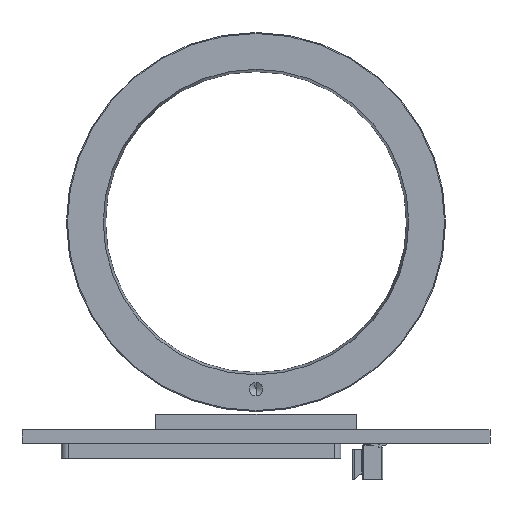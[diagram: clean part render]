
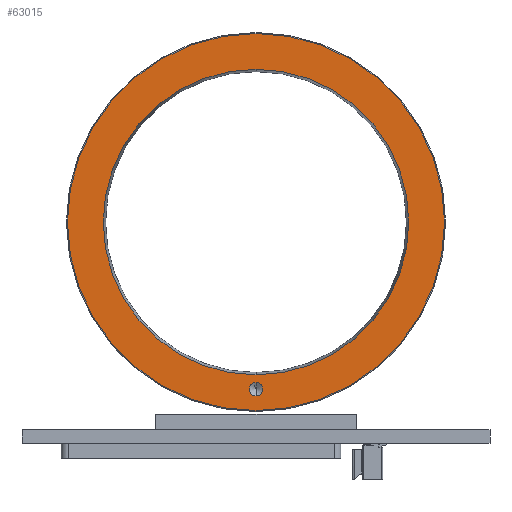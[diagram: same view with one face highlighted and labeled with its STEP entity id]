
A CAD part, front view. The second image highlights one B-rep face of the part: STEP entity #63015.
In plain terms, the highlighted planar face has unit normal (0, -1, 0).
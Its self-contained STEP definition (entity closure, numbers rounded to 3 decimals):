
#1165 = AXIS2_PLACEMENT_3D ( 'NONE', #49432, #76356, #34896 ) ;
#1835 = PLANE ( 'NONE',  #80622 ) ;
#2285 = FACE_BOUND ( 'NONE', #24016, .T. ) ;
#4452 = EDGE_CURVE ( 'NONE', #31930, #64539, #70320, .T. ) ;
#6733 = CIRCLE ( 'NONE', #50452, 28.2 ) ;
#9665 = CIRCLE ( 'NONE', #1165, 1. ) ;
#9859 = AXIS2_PLACEMENT_3D ( 'NONE', #54389, #33702, #67628 ) ;
#11660 = DIRECTION ( 'NONE',  ( 0., -1., 0. ) ) ;
#17860 = DIRECTION ( 'NONE',  ( 0., 0., -1. ) ) ;
#19500 = DIRECTION ( 'NONE',  ( 0., 0., -1. ) ) ;
#21609 = VERTEX_POINT ( 'NONE', #66989 ) ;
#22305 = AXIS2_PLACEMENT_3D ( 'NONE', #78408, #11660, #17860 ) ;
#22892 = VERTEX_POINT ( 'NONE', #46778 ) ;
#23541 = CARTESIAN_POINT ( 'NONE',  ( 28.4, 0., 0. ) ) ;
#23775 = CARTESIAN_POINT ( 'NONE',  ( 0., 0., -22.853 ) ) ;
#24016 = EDGE_LOOP ( 'NONE', ( #71800, #81069 ) ) ;
#25318 = DIRECTION ( 'NONE',  ( 0., -1., 0. ) ) ;
#26097 = CARTESIAN_POINT ( 'NONE',  ( 0., 0., -26. ) ) ;
#26528 = CIRCLE ( 'NONE', #22305, 22.853 ) ;
#27980 = EDGE_CURVE ( 'NONE', #21609, #42711, #9665, .T. ) ;
#30907 = AXIS2_PLACEMENT_3D ( 'NONE', #58810, #25318, #19500 ) ;
#31930 = VERTEX_POINT ( 'NONE', #35107 ) ;
#32216 = EDGE_CURVE ( 'NONE', #22892, #50706, #67630, .T. ) ;
#33702 = DIRECTION ( 'NONE',  ( 0., -1., 0. ) ) ;
#34896 = DIRECTION ( 'NONE',  ( 0., 0., -1. ) ) ;
#35107 = CARTESIAN_POINT ( 'NONE',  ( 0., 0., 28.2 ) ) ;
#38693 = EDGE_LOOP ( 'NONE', ( #68052, #69191 ) ) ;
#42711 = VERTEX_POINT ( 'NONE', #26097 ) ;
#43621 = AXIS2_PLACEMENT_3D ( 'NONE', #44199, #64861, #64006 ) ;
#44199 = CARTESIAN_POINT ( 'NONE',  ( 0., 0., 0. ) ) ;
#45753 = ORIENTED_EDGE ( 'NONE', *, *, #61322, .F. ) ;
#46778 = CARTESIAN_POINT ( 'NONE',  ( 0., 0., 22.853 ) ) ;
#49432 = CARTESIAN_POINT ( 'NONE',  ( 0., 0., -25. ) ) ;
#50082 = ORIENTED_EDGE ( 'NONE', *, *, #27980, .F. ) ;
#50452 = AXIS2_PLACEMENT_3D ( 'NONE', #58364, #61849, #68917 ) ;
#50454 = DIRECTION ( 'NONE',  ( 0., 0., -1. ) ) ;
#50706 = VERTEX_POINT ( 'NONE', #23775 ) ;
#54389 = CARTESIAN_POINT ( 'NONE',  ( 0., 0., 0. ) ) ;
#58364 = CARTESIAN_POINT ( 'NONE',  ( 0., 0., 0. ) ) ;
#58810 = CARTESIAN_POINT ( 'NONE',  ( 0., 0., -25. ) ) ;
#59575 = EDGE_CURVE ( 'NONE', #50706, #22892, #26528, .T. ) ;
#60581 = EDGE_CURVE ( 'NONE', #64539, #31930, #6733, .T. ) ;
#60771 = EDGE_LOOP ( 'NONE', ( #45753, #50082 ) ) ;
#61322 = EDGE_CURVE ( 'NONE', #42711, #21609, #71705, .T. ) ;
#61849 = DIRECTION ( 'NONE',  ( 0., -1., 0. ) ) ;
#63015 = ADVANCED_FACE ( 'NONE', ( #2285, #75640, #76967 ), #1835, .T. ) ;
#64006 = DIRECTION ( 'NONE',  ( 0., 0., -1. ) ) ;
#64539 = VERTEX_POINT ( 'NONE', #85268 ) ;
#64861 = DIRECTION ( 'NONE',  ( 0., -1., 0. ) ) ;
#66989 = CARTESIAN_POINT ( 'NONE',  ( 0., 0., -24. ) ) ;
#67628 = DIRECTION ( 'NONE',  ( 0., 0., -1. ) ) ;
#67630 = CIRCLE ( 'NONE', #9859, 22.853 ) ;
#68052 = ORIENTED_EDGE ( 'NONE', *, *, #60581, .T. ) ;
#68917 = DIRECTION ( 'NONE',  ( 0., 0., -1. ) ) ;
#69191 = ORIENTED_EDGE ( 'NONE', *, *, #4452, .T. ) ;
#70320 = CIRCLE ( 'NONE', #43621, 28.2 ) ;
#71705 = CIRCLE ( 'NONE', #30907, 1. ) ;
#71800 = ORIENTED_EDGE ( 'NONE', *, *, #59575, .F. ) ;
#75640 = FACE_BOUND ( 'NONE', #60771, .T. ) ;
#76356 = DIRECTION ( 'NONE',  ( 0., -1., 0. ) ) ;
#76531 = DIRECTION ( 'NONE',  ( 0., -1., 0. ) ) ;
#76967 = FACE_OUTER_BOUND ( 'NONE', #38693, .T. ) ;
#78408 = CARTESIAN_POINT ( 'NONE',  ( 0., 0., 0. ) ) ;
#80622 = AXIS2_PLACEMENT_3D ( 'NONE', #23541, #76531, #50454 ) ;
#81069 = ORIENTED_EDGE ( 'NONE', *, *, #32216, .F. ) ;
#85268 = CARTESIAN_POINT ( 'NONE',  ( 0., 0., -28.2 ) ) ;
